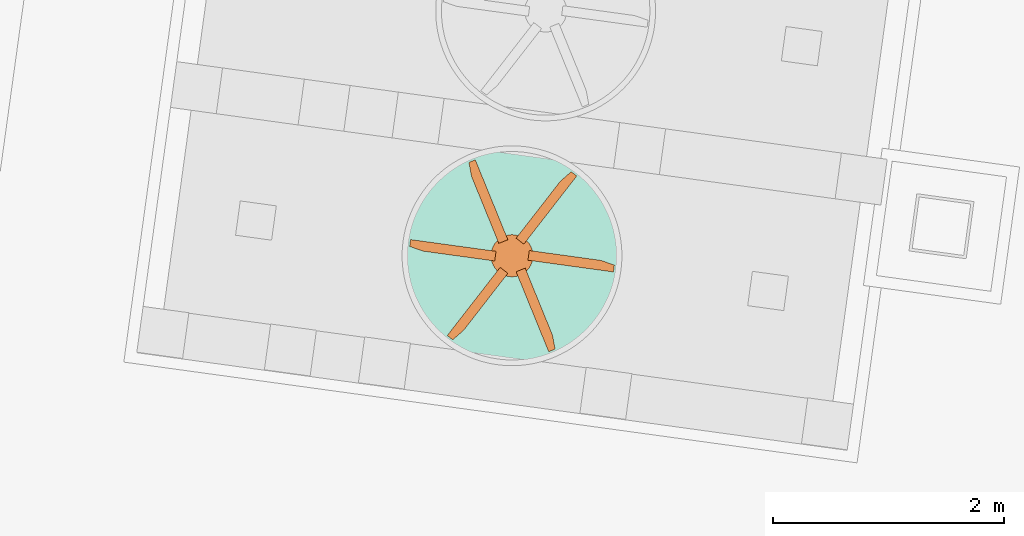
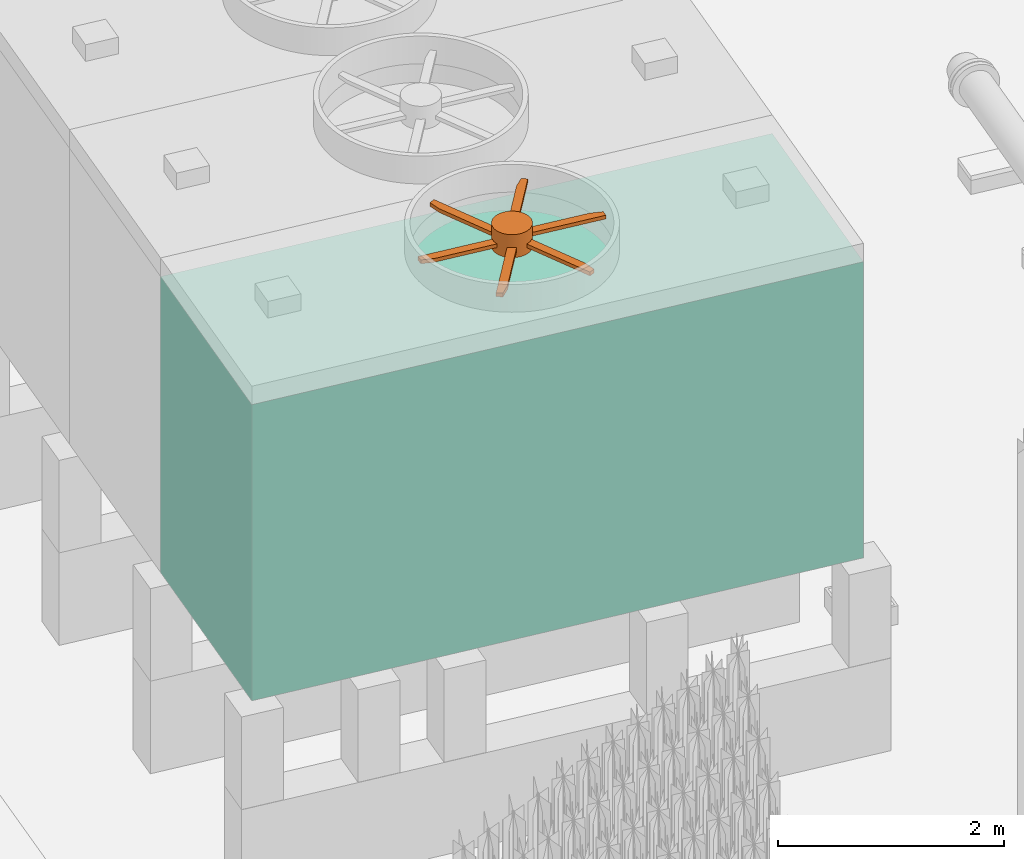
# Not in any storey, part 37 of 75: 7 proxies, plus 1 element that does not belong to this part.
"""IFC4 model written with IfcOpenShell, lengths in metres."""

from ifc_helpers import new_model, si_unit, direction, origin_with_axes, place, context, subcontext, project, spatial, triangles, element, aggregate, save


model = new_model("IFC4")

# Units and contexts
model_context = context("Model", 3, precision=1e-05, world=origin_with_axes(), true_north=direction((0.0, 1.0)))
body_context = subcontext(model_context, "Body", "Model", "MODEL_VIEW")
ifc_project = project(units=[si_unit("AREAUNIT", "SQUARE_METRE"), si_unit("VOLUMEUNIT", "CUBIC_METRE"), si_unit("LENGTHUNIT", "METRE")], contexts=[model_context])

# Site
site_placement = place(None, origin_with_axes())
site = spatial("IfcSite", under=ifc_project, at=site_placement, Name="Parcela industrial Jinhong")

# Cooling tower, proxies
cooling_tower_placement = place(site_placement, origin_with_axes())
cooling_tower = element("IfcCoolingTower", 1, at=cooling_tower_placement, inside=site, Name="Torre de refrigeración WT3001D · Envolvente del cuerpo de la torre", ObjectType="Envolvente de equipo", PredefinedType="USERDEFINED", context=body_context, shape_type="Tessellation", body=[
    triangles([(41.65741, 42.104178, 6.3), (36.153404, 45.021028, 6.3), (35.861928, 42.900971, 6.3), (36.153404, 45.021028, 3.1), (41.65741, 42.104178, 3.1), (35.861928, 42.900971, 3.1), (41.948887, 44.224235, 6.3), (41.948887, 44.224235, 3.1)], [[1, 2, 3], [4, 5, 6], [1, 7, 2], [5, 4, 8], [5, 8, 7], [5, 7, 1], [8, 4, 2], [7, 8, 2], [3, 4, 6], [4, 3, 2], [6, 5, 1], [3, 6, 1]], closed=True),
])
proxy_1_placement = place(cooling_tower_placement, origin_with_axes())
proxy_1 = element("IfcBuildingElementProxy", 2, at=proxy_1_placement, Name="Torre de refrigeración WT3001D · Pala de ventilador 1 · contorno CAD", context=body_context, shape_type="Tessellation", body=[
    triangles([(38.587726, 44.393974, 6.66), (38.791099, 43.669602, 6.66), (38.869843, 43.701691, 6.66), (38.587726, 44.393974, 6.62), (38.869843, 43.701691, 6.62), (38.791099, 43.669602, 6.62), (38.531654, 44.370321, 6.66), (38.559488, 44.382627, 6.66), (38.559488, 44.382627, 6.62), (38.531654, 44.370321, 6.62), (38.555471, 44.247804, 6.66), (38.555471, 44.247804, 6.62)], [[1, 2, 3], [4, 5, 6], [8, 7, 1], [9, 4, 10], [11, 2, 7], [10, 6, 12], [2, 1, 7], [6, 10, 4], [8, 4, 9], [8, 1, 4], [7, 9, 10], [7, 8, 9], [11, 10, 12], [10, 11, 7], [6, 2, 12], [12, 2, 11], [6, 5, 3], [6, 3, 2], [4, 1, 5], [1, 3, 5]], closed=True),
])
proxy_2_placement = place(cooling_tower_placement, origin_with_axes())
proxy_2 = element("IfcBuildingElementProxy", 3, at=proxy_2_placement, Name="Torre de refrigeración WT3001D · Pala de ventilador 2 · contorno CAD", context=body_context, shape_type="Tessellation", body=[
    triangles([(39.019715, 43.455604, 6.66), (38.940971, 43.423514, 6.66), (39.223088, 42.731231, 6.66), (38.940971, 43.423514, 6.62), (39.019715, 43.455604, 6.62), (39.223088, 42.731231, 6.62), (39.27916, 42.754885, 6.66), (39.251326, 42.742579, 6.66), (39.251326, 42.742579, 6.62), (39.27916, 42.754885, 6.62), (39.255343, 42.877401, 6.66), (39.255343, 42.877401, 6.62)], [[1, 2, 3], [4, 5, 6], [8, 7, 3], [9, 6, 10], [11, 1, 7], [10, 5, 12], [1, 3, 7], [5, 10, 6], [8, 6, 9], [8, 3, 6], [7, 9, 10], [7, 8, 9], [11, 10, 12], [10, 11, 7], [5, 1, 12], [12, 1, 11], [5, 4, 2], [5, 2, 1], [3, 4, 6], [4, 3, 2]], closed=True),
])
proxy_3_placement = place(cooling_tower_placement, origin_with_axes())
proxy_3 = element("IfcBuildingElementProxy", 4, at=proxy_3_placement, Name="Torre de refrigeración WT3001D · Pala de ventilador 3 · contorno CAD", context=body_context, shape_type="Tessellation", body=[
    triangles([(38.869898, 43.410109, 6.66), (38.802735, 43.46226, 6.66), (38.344259, 42.871797, 6.66), (38.802735, 43.46226, 6.62), (38.869898, 43.410109, 6.62), (38.344259, 42.871797, 6.62), (38.392779, 42.835064, 6.66), (38.368205, 42.853016, 6.66), (38.368205, 42.853016, 6.62), (38.392779, 42.835064, 6.62), (38.486973, 42.916949, 6.66), (38.486973, 42.916949, 6.62)], [[1, 2, 3], [4, 5, 6], [8, 7, 3], [9, 6, 10], [11, 1, 7], [10, 5, 12], [1, 3, 7], [5, 10, 6], [8, 6, 9], [8, 3, 6], [7, 9, 10], [7, 8, 9], [11, 10, 12], [10, 11, 7], [5, 1, 12], [12, 1, 11], [5, 4, 2], [5, 2, 1], [3, 4, 6], [4, 3, 2]], closed=True),
])
proxy_4_placement = place(cooling_tower_placement, origin_with_axes())
proxy_4 = element("IfcBuildingElementProxy", 5, at=proxy_4_placement, Name="Torre de refrigeración WT3001D · Pala de ventilador 4 · contorno CAD", context=body_context, shape_type="Tessellation", body=[
    triangles([(39.466555, 44.253409, 6.66), (38.940916, 43.715096, 6.66), (39.008079, 43.662946, 6.66), (39.466555, 44.253409, 6.62), (39.008079, 43.662946, 6.62), (38.940916, 43.715096, 6.62), (39.418035, 44.290142, 6.66), (39.442609, 44.27219, 6.66), (39.442609, 44.27219, 6.62), (39.418035, 44.290142, 6.62), (39.323841, 44.208257, 6.66), (39.323841, 44.208257, 6.62)], [[1, 2, 3], [4, 5, 6], [8, 7, 1], [9, 4, 10], [11, 2, 7], [10, 6, 12], [2, 1, 7], [6, 10, 4], [8, 4, 9], [8, 1, 4], [7, 9, 10], [7, 8, 9], [11, 10, 12], [10, 11, 7], [6, 2, 12], [12, 2, 11], [6, 5, 3], [6, 3, 2], [4, 1, 5], [1, 3, 5]], closed=True),
])
proxy_5_placement = place(cooling_tower_placement, origin_with_axes())
proxy_5 = element("IfcBuildingElementProxy", 6, at=proxy_5_placement, Name="Torre de refrigeración WT3001D · Pala de ventilador 5 · contorno CAD", context=body_context, shape_type="Tessellation", body=[
    triangles([(39.784236, 43.422037, 6.66), (39.055225, 43.608098, 6.66), (39.043643, 43.523857, 6.66), (39.055225, 43.608098, 6.62), (39.784236, 43.422037, 6.62), (39.043643, 43.523857, 6.62), (39.791788, 43.482424, 6.66), (39.788529, 43.452166, 6.66), (39.788529, 43.452166, 6.62), (39.791788, 43.482424, 6.62), (39.673777, 43.523056, 6.66), (39.673777, 43.523056, 6.62)], [[1, 2, 3], [4, 5, 6], [8, 7, 1], [9, 5, 10], [11, 2, 7], [10, 4, 12], [7, 2, 1], [5, 4, 10], [5, 9, 8], [5, 8, 1], [7, 9, 10], [7, 8, 9], [11, 10, 12], [10, 11, 7], [12, 4, 2], [11, 12, 2], [3, 4, 6], [4, 3, 2], [6, 5, 1], [3, 6, 1]], closed=True),
])
proxy_6_placement = place(cooling_tower_placement, origin_with_axes())
proxy_6 = element("IfcBuildingElementProxy", 7, at=proxy_6_placement, Name="Torre de refrigeración WT3001D · Pala de ventilador 6 · contorno CAD", context=body_context, shape_type="Tessellation", body=[
    triangles([(38.767171, 43.601348, 6.66), (38.026578, 43.703169, 6.66), (38.755589, 43.517108, 6.66), (38.026578, 43.703169, 6.62), (38.767171, 43.601348, 6.62), (38.755589, 43.517108, 6.62), (38.019026, 43.642782, 6.66), (38.022286, 43.67304, 6.66), (38.022286, 43.67304, 6.62), (38.019026, 43.642782, 6.62), (38.137037, 43.60215, 6.66), (38.137037, 43.60215, 6.62)], [[1, 2, 3], [4, 5, 6], [8, 7, 2], [9, 4, 10], [11, 3, 7], [10, 6, 12], [7, 3, 2], [10, 4, 6], [4, 9, 8], [4, 8, 2], [7, 9, 10], [7, 8, 9], [11, 10, 12], [10, 11, 7], [12, 6, 3], [11, 12, 3], [5, 1, 6], [1, 3, 6], [5, 4, 2], [5, 2, 1]], closed=True),
])
proxy_7_placement = place(cooling_tower_placement, origin_with_axes())
proxy_7 = element("IfcBuildingElementProxy", 8, at=proxy_7_placement, Name="Torre de refrigeración WT3001D · Envolvente del buje del ventilador", context=body_context, shape_type="Tessellation", body=[
    triangles([(39.085904, 43.537787, 6.8), (39.082603, 43.520215, 6.8), (39.084469, 43.52896, 6.8), (39.082603, 43.520215, 6.55), (39.085904, 43.537787, 6.55), (39.084469, 43.52896, 6.55), (39.087468, 43.555598, 6.8), (39.086905, 43.546674, 6.8), (39.086905, 43.546674, 6.55), (39.087468, 43.555598, 6.55), (39.087278, 43.573477, 6.8), (39.087592, 43.56454, 6.8), (39.087592, 43.56454, 6.55), (39.087278, 43.573477, 6.55), (39.085336, 43.591251, 6.8), (39.086525, 43.582388, 6.8), (39.086525, 43.582388, 6.55), (39.085336, 43.591251, 6.55), (39.081661, 43.608749, 6.8), (39.083713, 43.600045, 6.8), (39.083713, 43.600045, 6.55), (39.081661, 43.608749, 6.55), (39.07629, 43.625803, 6.8), (39.079185, 43.617342, 6.8), (39.079185, 43.617342, 6.55), (39.07629, 43.625803, 6.55), (39.069272, 43.642248, 6.8), (39.072983, 43.634112, 6.8), (39.072983, 43.634112, 6.55), (39.069272, 43.642248, 6.55), (39.060676, 43.657926, 6.8), (39.065167, 43.650193, 6.8), (39.065167, 43.650193, 6.55), (39.060676, 43.657926, 6.55), (39.050585, 43.672686, 6.8), (39.055812, 43.66543, 6.8), (39.055812, 43.66543, 6.55), (39.050585, 43.672686, 6.55), (39.039096, 43.686386, 6.8), (39.045009, 43.679677, 6.8), (39.045009, 43.679677, 6.55), (39.039096, 43.686386, 6.55), (39.02632, 43.698894, 6.8), (39.032861, 43.692797, 6.8), (39.032861, 43.692797, 6.55), (39.02632, 43.698894, 6.55), (39.012378, 43.710089, 6.8), (39.019486, 43.704663, 6.8), (39.019486, 43.704663, 6.55), (39.012378, 43.710089, 6.55), (38.997407, 43.719864, 6.8), (39.005013, 43.71516, 6.8), (39.005013, 43.71516, 6.55), (38.997407, 43.719864, 6.55), (38.98155, 43.728124, 6.8), (38.98958, 43.724189, 6.8), (38.98958, 43.724189, 6.55), (38.98155, 43.728124, 6.55), (38.964959, 43.734791, 6.8), (38.973336, 43.731661, 6.8), (38.973336, 43.731661, 6.55), (38.964959, 43.734791, 6.55), (38.947795, 43.739799, 6.8), (38.956439, 43.737505, 6.8), (38.956439, 43.737505, 6.55), (38.947795, 43.739799, 6.55), (38.930223, 43.7431, 6.8), (38.93905, 43.741665, 6.8), (38.93905, 43.741665, 6.55), (38.930223, 43.7431, 6.55), (38.912412, 43.744663, 6.8), (38.921336, 43.7441, 6.8), (38.921336, 43.7441, 6.55), (38.912412, 43.744663, 6.55), (38.90347, 43.744788, 6.8), (38.894533, 43.744473, 6.8), (38.894533, 43.744473, 6.55), (38.90347, 43.744788, 6.55), (38.876759, 43.742532, 6.8), (38.885622, 43.743721, 6.8), (38.885622, 43.743721, 6.55), (38.876759, 43.742532, 6.55), (38.859261, 43.738857, 6.8), (38.867965, 43.740909, 6.8), (38.867965, 43.740909, 6.55), (38.859261, 43.738857, 6.55), (38.842207, 43.733485, 6.8), (38.850668, 43.73638, 6.8), (38.850668, 43.73638, 6.55), (38.842207, 43.733485, 6.55), (38.825762, 43.726468, 6.8), (38.833898, 43.730178, 6.8), (38.833898, 43.730178, 6.55), (38.825762, 43.726468, 6.55), (38.810084, 43.717872, 6.8), (38.817817, 43.722362, 6.8), (38.817817, 43.722362, 6.55), (38.810084, 43.717872, 6.55), (38.795324, 43.707781, 6.8), (38.80258, 43.713008, 6.8), (38.80258, 43.713008, 6.55), (38.795324, 43.707781, 6.55), (38.781624, 43.696292, 6.8), (38.788333, 43.702205, 6.8), (38.788333, 43.702205, 6.55), (38.781624, 43.696292, 6.55), (38.769116, 43.683515, 6.8), (38.775213, 43.690057, 6.8), (38.775213, 43.690057, 6.55), (38.769116, 43.683515, 6.55), (38.757921, 43.669574, 6.8), (38.763347, 43.676682, 6.8), (38.763347, 43.676682, 6.55), (38.757921, 43.669574, 6.55), (38.748146, 43.654603, 6.8), (38.75285, 43.662208, 6.8), (38.75285, 43.662208, 6.55), (38.748146, 43.654603, 6.55), (38.739886, 43.638746, 6.8), (38.743821, 43.646776, 6.8), (38.743821, 43.646776, 6.55), (38.739886, 43.638746, 6.55), (38.733219, 43.622155, 6.8), (38.736349, 43.630532, 6.8), (38.736349, 43.630532, 6.55), (38.733219, 43.622155, 6.55), (38.728211, 43.604991, 6.8), (38.730505, 43.613634, 6.8), (38.730505, 43.613634, 6.55), (38.728211, 43.604991, 6.55), (38.72491, 43.587419, 6.8), (38.726345, 43.596245, 6.8), (38.726345, 43.596245, 6.55), (38.72491, 43.587419, 6.55), (38.723347, 43.569607, 6.8), (38.72391, 43.578532, 6.8), (38.72391, 43.578532, 6.55), (38.723347, 43.569607, 6.55), (38.723537, 43.551728, 6.8), (38.723222, 43.560665, 6.8), (38.723222, 43.560665, 6.55), (38.723537, 43.551728, 6.55), (38.725478, 43.533954, 6.8), (38.724289, 43.542818, 6.8), (38.724289, 43.542818, 6.55), (38.725478, 43.533954, 6.55), (38.729153, 43.516456, 6.8), (38.727101, 43.52516, 6.8), (38.727101, 43.52516, 6.55), (38.729153, 43.516456, 6.55), (38.734525, 43.499402, 6.8), (38.731629, 43.507863, 6.8), (38.731629, 43.507863, 6.55), (38.734525, 43.499402, 6.55), (38.741542, 43.482957, 6.8), (38.737832, 43.491094, 6.8), (38.737832, 43.491094, 6.55), (38.741542, 43.482957, 6.55), (38.750138, 43.467279, 6.8), (38.745648, 43.475013, 6.8), (38.745648, 43.475013, 6.55), (38.750138, 43.467279, 6.55), (38.760229, 43.452519, 6.8), (38.755002, 43.459775, 6.8), (38.755002, 43.459775, 6.55), (38.760229, 43.452519, 6.55), (38.771718, 43.438819, 6.8), (38.765805, 43.445528, 6.8), (38.765805, 43.445528, 6.55), (38.771718, 43.438819, 6.55), (38.784495, 43.426312, 6.8), (38.777953, 43.432409, 6.8), (38.777953, 43.432409, 6.55), (38.784495, 43.426312, 6.55), (38.798436, 43.415116, 6.8), (38.791328, 43.420543, 6.8), (38.791328, 43.420543, 6.55), (38.798436, 43.415116, 6.55), (38.813407, 43.405342, 6.8), (38.805802, 43.410045, 6.8), (38.805802, 43.410045, 6.55), (38.813407, 43.405342, 6.55), (38.829264, 43.397081, 6.8), (38.821234, 43.401017, 6.8), (38.821234, 43.401017, 6.55), (38.829264, 43.397081, 6.55), (38.845855, 43.390415, 6.8), (38.837478, 43.393545, 6.8), (38.837478, 43.393545, 6.55), (38.845855, 43.390415, 6.55), (38.863019, 43.385407, 6.8), (38.854376, 43.3877, 6.8), (38.854376, 43.3877, 6.55), (38.863019, 43.385407, 6.55), (38.880591, 43.382106, 6.8), (38.871765, 43.383541, 6.8), (38.871765, 43.383541, 6.55), (38.880591, 43.382106, 6.55), (38.898403, 43.380542, 6.8), (38.889478, 43.381105, 6.8), (38.889478, 43.381105, 6.55), (38.898403, 43.380542, 6.55), (38.916282, 43.380732, 6.8), (38.907345, 43.380418, 6.8), (38.907345, 43.380418, 6.55), (38.916282, 43.380732, 6.55), (38.934056, 43.382674, 6.8), (38.925192, 43.381485, 6.8), (38.925192, 43.381485, 6.55), (38.934056, 43.382674, 6.55), (38.951554, 43.386349, 6.8), (38.94285, 43.384297, 6.8), (38.94285, 43.384297, 6.55), (38.951554, 43.386349, 6.55), (38.968607, 43.39172, 6.8), (38.960147, 43.388825, 6.8), (38.960147, 43.388825, 6.55), (38.968607, 43.39172, 6.55), (38.985053, 43.398738, 6.8), (38.976916, 43.395027, 6.8), (38.976916, 43.395027, 6.55), (38.985053, 43.398738, 6.55), (39.000731, 43.407334, 6.8), (38.992997, 43.402843, 6.8), (38.992997, 43.402843, 6.55), (39.000731, 43.407334, 6.55), (39.015491, 43.417425, 6.8), (39.008234, 43.412198, 6.8), (39.008234, 43.412198, 6.55), (39.015491, 43.417425, 6.55), (39.029191, 43.428914, 6.8), (39.022482, 43.423001, 6.8), (39.022482, 43.423001, 6.55), (39.029191, 43.428914, 6.55), (39.041698, 43.44169, 6.8), (39.035601, 43.435149, 6.8), (39.035601, 43.435149, 6.55), (39.041698, 43.44169, 6.55), (39.052893, 43.455632, 6.8), (39.047467, 43.448524, 6.8), (39.047467, 43.448524, 6.55), (39.052893, 43.455632, 6.55), (39.062668, 43.470603, 6.8), (39.057965, 43.462997, 6.8), (39.057965, 43.462997, 6.55), (39.062668, 43.470603, 6.55), (39.070929, 43.48646, 6.8), (39.066993, 43.47843, 6.8), (39.066993, 43.47843, 6.55), (39.070929, 43.48646, 6.55), (39.077595, 43.503051, 6.8), (39.074465, 43.494674, 6.8), (39.074465, 43.494674, 6.55), (39.077595, 43.503051, 6.55), (39.08031, 43.511571, 6.8), (39.08031, 43.511571, 6.55)], [[1, 2, 3], [4, 5, 6], [8, 7, 1], [9, 5, 10], [12, 11, 7], [13, 10, 14], [16, 15, 11], [17, 14, 18], [20, 19, 15], [21, 18, 22], [24, 23, 19], [25, 22, 26], [28, 27, 23], [29, 26, 30], [32, 31, 27], [33, 30, 34], [36, 35, 31], [37, 34, 38], [40, 39, 35], [41, 38, 42], [44, 43, 39], [45, 42, 46], [48, 47, 43], [49, 46, 50], [52, 51, 47], [53, 50, 54], [56, 55, 51], [57, 54, 58], [60, 59, 55], [61, 58, 62], [64, 63, 59], [65, 62, 66], [68, 67, 63], [69, 66, 70], [72, 71, 67], [73, 70, 74], [71, 75, 76], [77, 78, 74], [80, 79, 76], [81, 77, 82], [84, 83, 79], [85, 82, 86], [88, 87, 83], [89, 86, 90], [92, 91, 87], [93, 90, 94], [96, 95, 91], [97, 94, 98], [100, 99, 95], [101, 98, 102], [104, 103, 99], [105, 102, 106], [108, 107, 103], [109, 106, 110], [112, 111, 107], [113, 110, 114], [116, 115, 111], [117, 114, 118], [120, 119, 115], [121, 118, 122], [124, 123, 119], [125, 122, 126], [128, 127, 123], [129, 126, 130], [132, 131, 127], [133, 130, 134], [136, 135, 131], [137, 134, 138], [140, 139, 135], [141, 138, 142], [144, 143, 139], [145, 142, 146], [148, 147, 143], [149, 146, 150], [152, 151, 147], [153, 150, 154], [156, 155, 151], [157, 154, 158], [160, 159, 155], [161, 158, 162], [164, 163, 159], [165, 162, 166], [168, 167, 163], [169, 166, 170], [172, 171, 167], [173, 170, 174], [176, 175, 171], [177, 174, 178], [180, 179, 175], [181, 178, 182], [184, 183, 179], [185, 182, 186], [188, 187, 183], [189, 186, 190], [192, 191, 187], [193, 190, 194], [196, 195, 191], [197, 194, 198], [200, 199, 195], [201, 198, 202], [204, 203, 199], [205, 202, 206], [208, 207, 203], [209, 206, 210], [212, 211, 207], [213, 210, 214], [216, 215, 211], [217, 214, 218], [220, 219, 215], [221, 218, 222], [224, 223, 219], [225, 222, 226], [228, 227, 223], [229, 226, 230], [232, 231, 227], [233, 230, 234], [236, 235, 231], [237, 234, 238], [240, 239, 235], [241, 238, 242], [244, 243, 239], [245, 242, 246], [248, 247, 243], [249, 246, 250], [252, 251, 247], [253, 250, 254], [255, 2, 251], [254, 4, 256], [7, 2, 1], [5, 4, 10], [11, 15, 7], [14, 10, 18], [19, 23, 15], [22, 18, 26], [27, 31, 23], [30, 26, 34], [35, 39, 31], [38, 34, 42], [43, 47, 39], [46, 42, 50], [51, 55, 47], [54, 50, 58], [59, 63, 55], [62, 58, 66], [67, 71, 63], [70, 66, 74], [71, 76, 79], [82, 77, 74], [83, 87, 79], [86, 82, 90], [91, 95, 87], [94, 90, 98], [99, 103, 95], [102, 98, 106], [107, 111, 103], [110, 106, 114], [115, 119, 111], [118, 114, 122], [123, 127, 119], [126, 122, 130], [131, 135, 127], [134, 130, 138], [139, 143, 135], [142, 138, 146], [147, 151, 143], [150, 146, 154], [155, 159, 151], [158, 154, 162], [163, 167, 159], [166, 162, 170], [171, 175, 167], [174, 170, 178], [179, 183, 175], [182, 178, 186], [187, 191, 183], [190, 186, 194], [195, 199, 191], [198, 194, 202], [203, 207, 199], [206, 202, 210], [211, 215, 207], [214, 210, 218], [219, 223, 215], [222, 218, 226], [227, 231, 223], [230, 226, 234], [235, 239, 231], [238, 234, 242], [243, 247, 239], [246, 242, 250], [251, 2, 247], [250, 4, 254], [7, 15, 2], [10, 4, 18], [23, 31, 15], [26, 18, 34], [39, 47, 31], [42, 34, 50], [55, 63, 47], [58, 50, 66], [63, 71, 79], [82, 74, 66], [87, 95, 79], [90, 82, 98], [103, 111, 95], [106, 98, 114], [119, 127, 111], [122, 114, 130], [135, 143, 127], [138, 130, 146], [151, 159, 143], [154, 146, 162], [167, 175, 159], [170, 162, 178], [183, 191, 175], [186, 178, 194], [199, 207, 191], [202, 194, 210], [215, 223, 207], [218, 210, 226], [231, 239, 223], [234, 226, 242], [247, 2, 239], [242, 4, 250], [15, 31, 2], [18, 4, 34], [47, 63, 31], [50, 34, 66], [63, 79, 95], [98, 82, 66], [111, 127, 95], [114, 98, 130], [143, 159, 127], [146, 130, 162], [175, 191, 159], [178, 162, 194], [207, 223, 191], [210, 194, 226], [239, 2, 223], [226, 4, 242], [2, 31, 63], [66, 34, 4], [63, 95, 127], [130, 98, 66], [127, 159, 191], [194, 162, 130], [223, 2, 191], [194, 4, 226], [2, 63, 127], [130, 66, 4], [191, 2, 127], [130, 4, 194], [5, 9, 8], [5, 8, 1], [7, 9, 10], [7, 8, 9], [10, 13, 12], [10, 12, 7], [11, 13, 14], [11, 12, 13], [14, 17, 16], [14, 16, 11], [15, 17, 18], [15, 16, 17], [18, 21, 20], [18, 20, 15], [19, 21, 22], [19, 20, 21], [22, 25, 24], [22, 24, 19], [23, 25, 26], [23, 24, 25], [26, 29, 28], [26, 28, 23], [27, 29, 30], [27, 28, 29], [30, 33, 32], [30, 32, 27], [31, 33, 34], [31, 32, 33], [34, 37, 36], [34, 36, 31], [35, 37, 38], [35, 36, 37], [38, 41, 40], [38, 40, 35], [39, 41, 42], [39, 40, 41], [42, 45, 44], [42, 44, 39], [43, 45, 46], [43, 44, 45], [48, 46, 49], [48, 43, 46], [47, 49, 50], [47, 48, 49], [52, 50, 53], [52, 47, 50], [51, 53, 54], [51, 52, 53], [56, 54, 57], [56, 51, 54], [55, 57, 58], [55, 56, 57], [60, 58, 61], [60, 55, 58], [59, 61, 62], [59, 60, 61], [64, 62, 65], [64, 59, 62], [63, 65, 66], [63, 64, 65], [68, 66, 69], [68, 63, 66], [67, 69, 70], [67, 68, 69], [72, 70, 73], [72, 67, 70], [71, 73, 74], [71, 72, 73], [75, 74, 78], [75, 71, 74], [78, 77, 76], [78, 76, 75], [80, 77, 81], [80, 76, 77], [79, 81, 82], [79, 80, 81], [84, 82, 85], [84, 79, 82], [83, 85, 86], [83, 84, 85], [88, 86, 89], [88, 83, 86], [87, 89, 90], [87, 88, 89], [92, 90, 93], [92, 87, 90], [91, 93, 94], [91, 92, 93], [96, 94, 97], [96, 91, 94], [95, 97, 98], [95, 96, 97], [100, 98, 101], [100, 95, 98], [99, 101, 102], [99, 100, 101], [104, 102, 105], [104, 99, 102], [103, 105, 106], [103, 104, 105], [108, 106, 109], [108, 103, 106], [107, 109, 110], [107, 108, 109], [110, 113, 112], [110, 112, 107], [111, 113, 114], [111, 112, 113], [114, 117, 116], [114, 116, 111], [115, 117, 118], [115, 116, 117], [118, 121, 120], [118, 120, 115], [119, 121, 122], [119, 120, 121], [122, 125, 124], [122, 124, 119], [123, 125, 126], [123, 124, 125], [126, 129, 128], [126, 128, 123], [127, 129, 130], [127, 128, 129], [130, 133, 132], [130, 132, 127], [131, 133, 134], [131, 132, 133], [134, 137, 136], [134, 136, 131], [135, 137, 138], [135, 136, 137], [138, 141, 140], [138, 140, 135], [139, 141, 142], [139, 140, 141], [142, 145, 144], [142, 144, 139], [143, 145, 146], [143, 144, 145], [146, 149, 148], [146, 148, 143], [147, 149, 150], [147, 148, 149], [150, 153, 152], [150, 152, 147], [151, 153, 154], [151, 152, 153], [154, 157, 156], [154, 156, 151], [155, 157, 158], [155, 156, 157], [158, 161, 160], [158, 160, 155], [159, 161, 162], [159, 160, 161], [162, 165, 164], [162, 164, 159], [163, 165, 166], [163, 164, 165], [166, 169, 168], [166, 168, 163], [167, 169, 170], [167, 168, 169], [170, 173, 172], [170, 172, 167], [171, 173, 174], [171, 172, 173], [176, 174, 177], [176, 171, 174], [175, 177, 178], [175, 176, 177], [180, 178, 181], [180, 175, 178], [179, 181, 182], [179, 180, 181], [184, 182, 185], [184, 179, 182], [183, 185, 186], [183, 184, 185], [188, 186, 189], [188, 183, 186], [187, 189, 190], [187, 188, 189], [192, 190, 193], [192, 187, 190], [191, 193, 194], [191, 192, 193], [196, 194, 197], [196, 191, 194], [195, 197, 198], [195, 196, 197], [200, 198, 201], [200, 195, 198], [199, 201, 202], [199, 200, 201], [204, 202, 205], [204, 199, 202], [203, 205, 206], [203, 204, 205], [208, 206, 209], [208, 203, 206], [207, 209, 210], [207, 208, 209], [212, 210, 213], [212, 207, 210], [211, 213, 214], [211, 212, 213], [216, 214, 217], [216, 211, 214], [215, 217, 218], [215, 216, 217], [220, 218, 221], [220, 215, 218], [219, 221, 222], [219, 220, 221], [224, 222, 225], [224, 219, 222], [223, 225, 226], [223, 224, 225], [228, 226, 229], [228, 223, 226], [227, 229, 230], [227, 228, 229], [232, 230, 233], [232, 227, 230], [231, 233, 234], [231, 232, 233], [236, 234, 237], [236, 231, 234], [235, 237, 238], [235, 236, 237], [238, 241, 240], [238, 240, 235], [239, 241, 242], [239, 240, 241], [242, 245, 244], [242, 244, 239], [243, 245, 246], [243, 244, 245], [246, 249, 248], [246, 248, 243], [247, 249, 250], [247, 248, 249], [250, 253, 252], [250, 252, 247], [251, 253, 254], [251, 252, 253], [254, 256, 255], [254, 255, 251], [256, 4, 2], [256, 2, 255], [3, 4, 6], [4, 3, 2], [6, 5, 1], [1, 3, 6]], closed=True),
])
aggregate(cooling_tower, [proxy_1, proxy_2, proxy_3, proxy_4, proxy_5, proxy_6, proxy_7])

save(model, "model.ifc")
